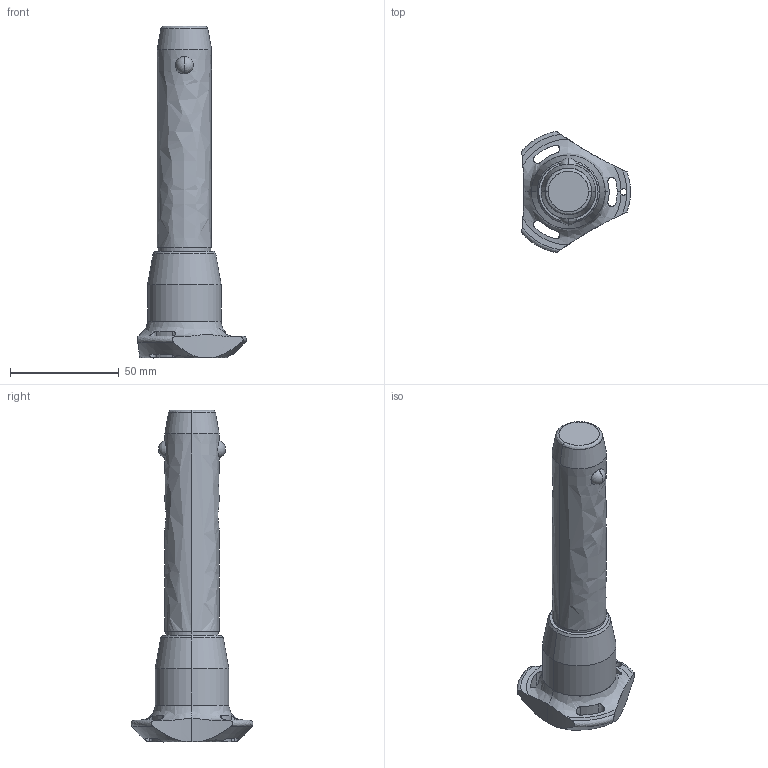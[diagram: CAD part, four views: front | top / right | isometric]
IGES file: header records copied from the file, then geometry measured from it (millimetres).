
Start section: SolidWorks IGES file using analytic representation for surfaces
Global section: file name: C:\Users\ianosborn\Desktop\QR1734_v2\QR1734_v2_20251113_IGES\QR1734.M25-080-S.igs; native system: SolidWorks 2019; preprocessor: SolidWorks 2019; author: IanOsborn; date: 251112.144538; units: millimetre
Bounding box: 50.03 x 56.02 x 152.7 mm (x, y, z)
Surface area: 17732.4 mm2 (no closed solid volume)
Topology: 0 solids, 0 shells, 65 faces, 1310 edges, 1306 vertices
Faces by surface type: revolution 50, bspline 15
